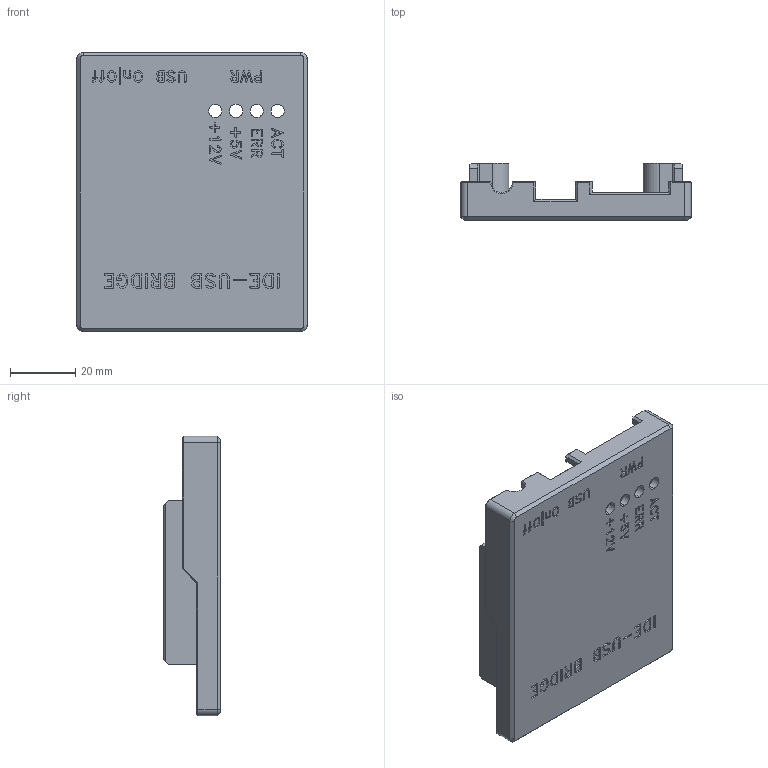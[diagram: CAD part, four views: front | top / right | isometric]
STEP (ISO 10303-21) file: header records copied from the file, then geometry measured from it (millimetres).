
FILE_DESCRIPTION (( 'STEP AP214' ), '1' );
FILE_NAME ('Box_Upper.STEP', '2026-11-09T13:51:22', ( 'WIN7' ), ( '' ), 'SwSTEP 2.0', 'SolidWorks 2016', '' );
FILE_SCHEMA (( 'AUTOMOTIVE_DESIGN' ));
Length unit declared in the file: millimetre
Products named in the file (1): Box_Upper
Bounding box: 70.4 x 17.4 x 85.4 mm (x, y, z)
Volume: 25436.5 mm3; surface area: 19206.5 mm2
Topology: 1 solids, 1 shells, 1232 faces, 3490 edges, 2316 vertices
Faces by surface type: plane 894, bspline 294, cylinder 31, cone 13
Entity records: 44667 total; most frequent: CARTESIAN_POINT 14609, ORIENTED_EDGE 6980, DIRECTION 4851, EDGE_CURVE 3490, VECTOR 2823, LINE 2823, VERTEX_POINT 2316, EDGE_LOOP 1296
